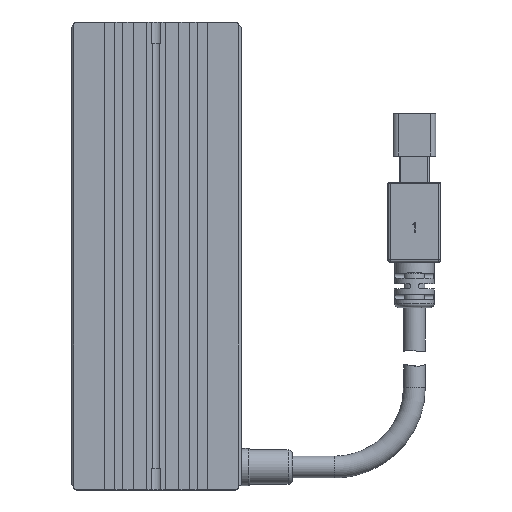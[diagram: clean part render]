
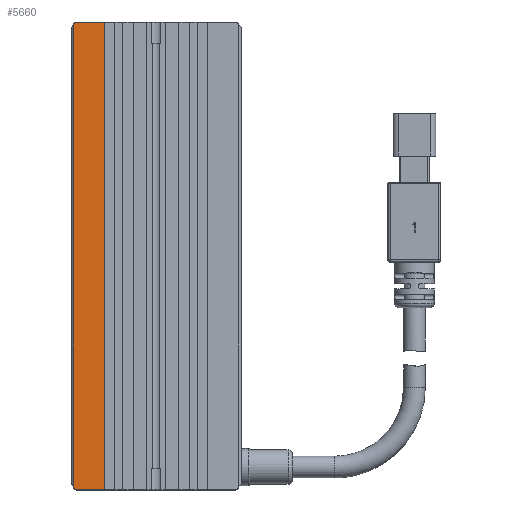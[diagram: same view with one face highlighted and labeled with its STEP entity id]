
A CAD part, top view. The second image highlights one B-rep face of the part: STEP entity #5660.
In plain terms, the highlighted planar face has unit normal (0, 0, 1).
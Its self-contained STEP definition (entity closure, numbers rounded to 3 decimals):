
#151 = CARTESIAN_POINT ( 'NONE',  ( -9.7, 44., 12.5 ) ) ;
#698 = ORIENTED_EDGE ( 'NONE', *, *, #4736, .F. ) ;
#733 = ORIENTED_EDGE ( 'NONE', *, *, #2636, .T. ) ;
#940 = DIRECTION ( 'NONE',  ( 1., 0., 0. ) ) ;
#2159 = LINE ( 'NONE', #7775, #3693 ) ;
#2636 = EDGE_CURVE ( 'NONE', #3743, #12157, #2159, .T. ) ;
#2982 = AXIS2_PLACEMENT_3D ( 'NONE', #3160, #13064, #17110 ) ;
#3002 = CARTESIAN_POINT ( 'NONE',  ( -15., 44., 12.5 ) ) ;
#3068 = LINE ( 'NONE', #8129, #14109 ) ;
#3160 = CARTESIAN_POINT ( 'NONE',  ( -15.5, 44., 12.5 ) ) ;
#3207 = VECTOR ( 'NONE', #13978, 1000. ) ;
#3221 = PLANE ( 'NONE',  #2982 ) ;
#3604 = DIRECTION ( 'NONE',  ( 0., -1., 0. ) ) ;
#3693 = VECTOR ( 'NONE', #18020, 1000. ) ;
#3743 = VERTEX_POINT ( 'NONE', #10831 ) ;
#3766 = FACE_OUTER_BOUND ( 'NONE', #8200, .T. ) ;
#3768 = EDGE_CURVE ( 'NONE', #13724, #3743, #5614, .T. ) ;
#4128 = DIRECTION ( 'NONE',  ( -0.707, -0.707, 0. ) ) ;
#4538 = VECTOR ( 'NONE', #4128, 1000. ) ;
#4736 = EDGE_CURVE ( 'NONE', #13724, #17877, #14876, .T. ) ;
#5060 = CARTESIAN_POINT ( 'NONE',  ( -9.7, -44., 12.5 ) ) ;
#5512 = EDGE_CURVE ( 'NONE', #17877, #9385, #10762, .T. ) ;
#5614 = LINE ( 'NONE', #3002, #4538 ) ;
#5660 = ADVANCED_FACE ( 'NONE', ( #3766 ), #3221, .F. ) ;
#6070 = ORIENTED_EDGE ( 'NONE', *, *, #3768, .T. ) ;
#6955 = LINE ( 'NONE', #16959, #3207 ) ;
#7775 = CARTESIAN_POINT ( 'NONE',  ( -15.5, 44., 12.5 ) ) ;
#7887 = CARTESIAN_POINT ( 'NONE',  ( -15., -44., 12.5 ) ) ;
#8126 = EDGE_CURVE ( 'NONE', #14131, #9385, #3068, .T. ) ;
#8129 = CARTESIAN_POINT ( 'NONE',  ( -15.5, -44., 12.5 ) ) ;
#8200 = EDGE_LOOP ( 'NONE', ( #698, #6070, #733, #11461, #12581, #14333 ) ) ;
#8819 = EDGE_CURVE ( 'NONE', #12157, #14131, #6955, .T. ) ;
#8872 = DIRECTION ( 'NONE',  ( 1., 0., 0. ) ) ;
#9385 = VERTEX_POINT ( 'NONE', #5060 ) ;
#10612 = CARTESIAN_POINT ( 'NONE',  ( -9.7, 44., 12.5 ) ) ;
#10762 = LINE ( 'NONE', #10612, #13703 ) ;
#10831 = CARTESIAN_POINT ( 'NONE',  ( -15.5, 43.5, 12.5 ) ) ;
#11461 = ORIENTED_EDGE ( 'NONE', *, *, #8819, .T. ) ;
#11838 = CARTESIAN_POINT ( 'NONE',  ( -15.5, 44., 12.5 ) ) ;
#12157 = VERTEX_POINT ( 'NONE', #12759 ) ;
#12581 = ORIENTED_EDGE ( 'NONE', *, *, #8126, .T. ) ;
#12759 = CARTESIAN_POINT ( 'NONE',  ( -15.5, -43.5, 12.5 ) ) ;
#13064 = DIRECTION ( 'NONE',  ( 0., 0., -1. ) ) ;
#13703 = VECTOR ( 'NONE', #3604, 1000. ) ;
#13724 = VERTEX_POINT ( 'NONE', #18188 ) ;
#13978 = DIRECTION ( 'NONE',  ( 0.707, -0.707, 0. ) ) ;
#14109 = VECTOR ( 'NONE', #940, 1000. ) ;
#14131 = VERTEX_POINT ( 'NONE', #7887 ) ;
#14333 = ORIENTED_EDGE ( 'NONE', *, *, #5512, .F. ) ;
#14876 = LINE ( 'NONE', #11838, #17074 ) ;
#16959 = CARTESIAN_POINT ( 'NONE',  ( -16., -43., 12.5 ) ) ;
#17074 = VECTOR ( 'NONE', #8872, 1000. ) ;
#17110 = DIRECTION ( 'NONE',  ( -1., 0., 0. ) ) ;
#17877 = VERTEX_POINT ( 'NONE', #151 ) ;
#18020 = DIRECTION ( 'NONE',  ( 0., -1., 0. ) ) ;
#18188 = CARTESIAN_POINT ( 'NONE',  ( -15., 44., 12.5 ) ) ;
